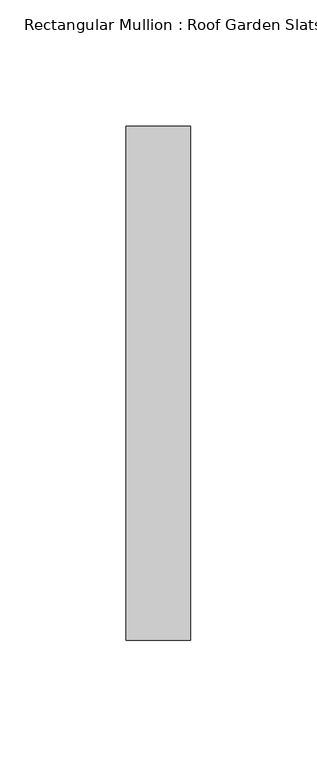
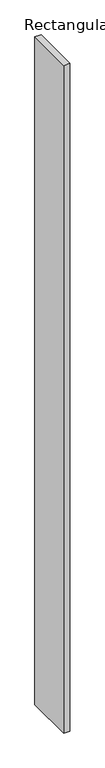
"""IFC4 building model written with IfcOpenShell, lengths in millimetres: member geometry, Rectangular Mullion : Roof Garden Slats."""

from ifc_helpers import new_model, si_unit, frame, origin, place, context, project, spatial, polyline, outline, extrude, source, transform, mapped, element, save


def rectangular_mullion_roof_garden_slats_58aaa02c(model_context):
    return source(origin(), model_context, "Body", "SweptSolid", [
        extrude(outline(polyline([(12.7, 139.7), (12.7, -63.5), (-12.7, -63.5), (-12.7, 139.7), (12.7, 139.7)])), frame((0.0, 0.0, -2877.7219842), z_axis=(0.0, 0.0, 1.0), x_axis=(1.0, 0.0, 0.0)), (0.0, 0.0, 1.0), 2877.7219842),
    ])


if __name__ == "__main__":
    model = new_model("IFC4")
    model_context = context("Model", 3, world=origin())
    ifc_project = project(units=[si_unit("LENGTHUNIT", "METRE", prefix="MILLI")], contexts=[model_context])
    site = spatial("IfcSite", under=ifc_project)
    building = spatial("IfcBuilding", under=site)
    placement = place(None, origin())
    rectangular_mullion_roof_garden_slats_shape = rectangular_mullion_roof_garden_slats_58aaa02c(model_context)
    element("IfcMember", 1, ObjectType="Rectangular Mullion : Roof Garden Slats", at=placement, inside=building, context=model_context, shape_type="MappedRepresentation", body=[
        mapped(rectangular_mullion_roof_garden_slats_shape, transform((0.0, 0.0, 0.0), x_axis=(1.0, 0.0, 0.0), y_axis=(0.0, 1.0, 0.0), z_axis=(0.0, 0.0, 1.0))),
    ])
    save(model, "model.ifc")
